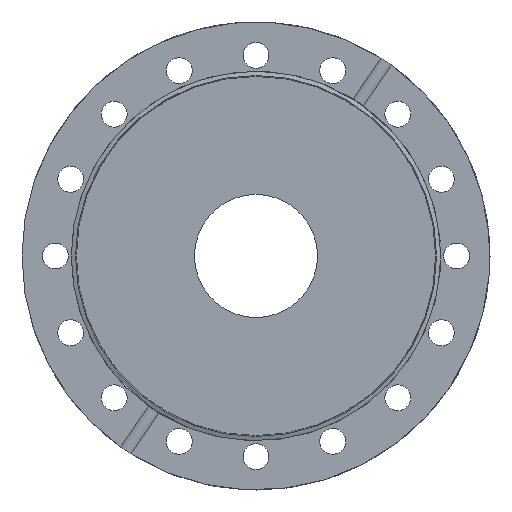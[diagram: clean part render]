
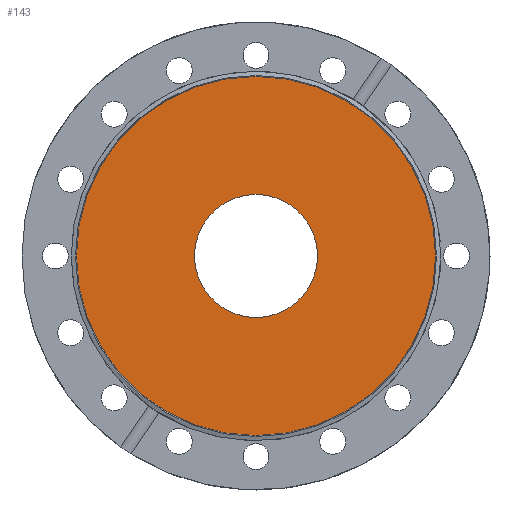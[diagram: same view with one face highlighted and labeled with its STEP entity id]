
A CAD part, left-side view. The second image highlights one B-rep face of the part: STEP entity #143.
In plain terms, the highlighted planar face has unit normal (-1, 0, 0).
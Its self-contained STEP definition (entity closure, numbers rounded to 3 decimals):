
#143 = ADVANCED_FACE( '', ( #316, #317 ), #318, .F. );
#316 = FACE_BOUND( '', #506, .T. );
#317 = FACE_OUTER_BOUND( '', #507, .T. );
#318 = PLANE( '', #508 );
#506 = EDGE_LOOP( '', ( #733 ) );
#507 = EDGE_LOOP( '', ( #734 ) );
#508 = AXIS2_PLACEMENT_3D( '', #735, #736, #737 );
#733 = ORIENTED_EDGE( '', *, *, #910, .F. );
#734 = ORIENTED_EDGE( '', *, *, #921, .T. );
#735 = CARTESIAN_POINT( '', ( -18.6, 0., 58.335 ) );
#736 = DIRECTION( '', ( 1., 0., 0. ) );
#737 = DIRECTION( '', ( 0., 0., -1. ) );
#910 = EDGE_CURVE( '', #1051, #1051, #1052, .T. );
#921 = EDGE_CURVE( '', #1067, #1067, #1068, .T. );
#1051 = VERTEX_POINT( '', #1240 );
#1052 = CIRCLE( '', #1241, 20. );
#1067 = VERTEX_POINT( '', #1290 );
#1068 = CIRCLE( '', #1291, 58.335 );
#1240 = CARTESIAN_POINT( '', ( -18.6, 0., 20. ) );
#1241 = AXIS2_PLACEMENT_3D( '', #1449, #1450, #1451 );
#1290 = CARTESIAN_POINT( '', ( -18.6, 0., 58.335 ) );
#1291 = AXIS2_PLACEMENT_3D( '', #1461, #1462, #1463 );
#1449 = CARTESIAN_POINT( '', ( -18.6, 0., 0. ) );
#1450 = DIRECTION( '', ( -1., 0., 0. ) );
#1451 = DIRECTION( '', ( 0., 0., 1. ) );
#1461 = CARTESIAN_POINT( '', ( -18.6, 0., 0. ) );
#1462 = DIRECTION( '', ( -1., 0., 0. ) );
#1463 = DIRECTION( '', ( 0., 0., 1. ) );
